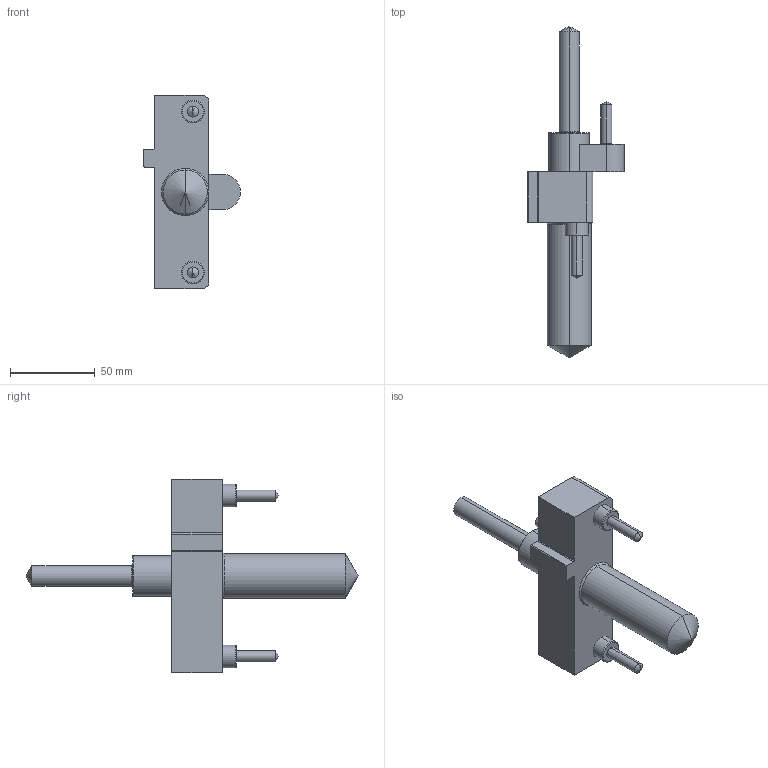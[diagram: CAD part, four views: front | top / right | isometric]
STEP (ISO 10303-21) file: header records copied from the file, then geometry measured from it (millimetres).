
FILE_DESCRIPTION (( 'STEP AP214' ), '1' );
FILE_NAME ('LS20050L_False_cut_LS_sim.STEP', '2024-09-18T09:05:24', ( '' ), ( '' ), 'SwSTEP 2.0', 'SolidWorks 2021', '' );
FILE_SCHEMA (( 'AUTOMOTIVE_DESIGN' ));
Length unit declared in the file: millimetre
Products named in the file (1): LS20050L_False_cut_LS_sim
Bounding box: 57 x 196 x 114 mm (x, y, z)
Volume: 179925.7 mm3; surface area: 29788.2 mm2
Topology: 1 solids, 1 shells, 67 faces, 164 edges, 95 vertices
Faces by surface type: cylinder 24, plane 19, cone 16, torus 8
Entity records: 1938 total; most frequent: DIRECTION 358, CARTESIAN_POINT 331, ORIENTED_EDGE 308, EDGE_CURVE 154, AXIS2_PLACEMENT_3D 138, VERTEX_POINT 95, LINE 82, VECTOR 82
